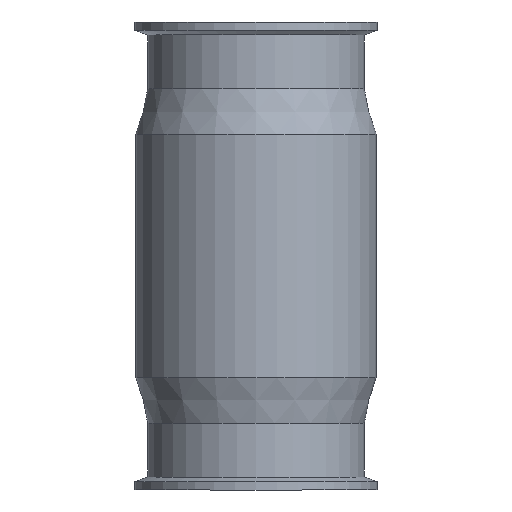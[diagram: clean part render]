
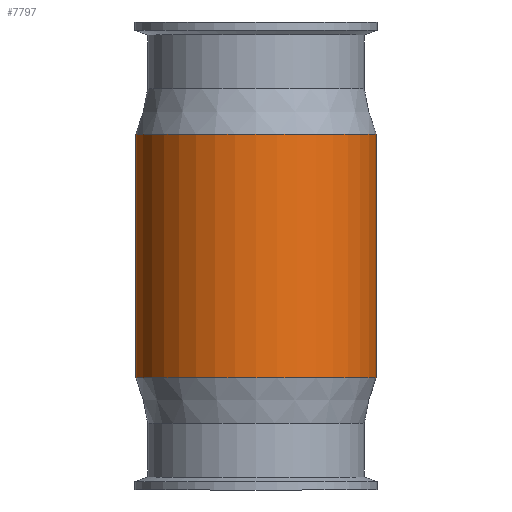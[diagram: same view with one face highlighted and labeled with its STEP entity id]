
A CAD part, front view. The second image highlights one B-rep face of the part: STEP entity #7797.
In plain terms, the highlighted cylindrical face has radius 45 mm (diameter 90 mm), a full revolution.
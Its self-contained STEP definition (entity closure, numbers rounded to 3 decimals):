
#6044=CYLINDRICAL_SURFACE('',#22681,45.);
#6818=B_SPLINE_CURVE_WITH_KNOTS('',3,(#43963,#43964,#43965,#43966,#43967,
#43968,#43969,#43970,#43971,#43972),.UNSPECIFIED.,.F.,.F.,(4,2,2,2,4),(0.,
0.25,0.5,0.75,1.),.UNSPECIFIED.);
#6819=B_SPLINE_CURVE_WITH_KNOTS('',3,(#43977,#43978,#43979,#43980,#43981,
#43982,#43983,#43984,#43985,#43986),.UNSPECIFIED.,.F.,.F.,(4,2,2,2,4),(0.,
0.25,0.5,0.75,1.),.UNSPECIFIED.);
#7797=ADVANCED_FACE('',(#8625,#8626,#8627),#6044,.T.);
#8625=FACE_BOUND('',#9867,.T.);
#8626=FACE_BOUND('',#9868,.T.);
#8627=FACE_BOUND('',#9869,.T.);
#9867=EDGE_LOOP('',(#15129));
#9868=EDGE_LOOP('',(#15130));
#9869=EDGE_LOOP('',(#15131,#15132,#15133,#15134));
#10493=CIRCLE('',#22679,45.);
#10494=CIRCLE('',#22680,45.);
#15129=ORIENTED_EDGE('',*,*,#19063,.T.);
#15130=ORIENTED_EDGE('',*,*,#19064,.T.);
#15131=ORIENTED_EDGE('',*,*,#19062,.F.);
#15132=ORIENTED_EDGE('',*,*,#19060,.F.);
#15133=ORIENTED_EDGE('',*,*,#19061,.F.);
#15134=ORIENTED_EDGE('',*,*,#19058,.F.);
#16730=VERTEX_POINT('',#43961);
#16731=VERTEX_POINT('',#43962);
#16732=VERTEX_POINT('',#43975);
#16733=VERTEX_POINT('',#43976);
#16734=VERTEX_POINT('',#43992);
#16735=VERTEX_POINT('',#43994);
#19058=EDGE_CURVE('',#16731,#16730,#6818,.T.);
#19060=EDGE_CURVE('',#16733,#16732,#6819,.T.);
#19061=EDGE_CURVE('',#16730,#16733,#20077,.T.);
#19062=EDGE_CURVE('',#16732,#16731,#20078,.T.);
#19063=EDGE_CURVE('',#16734,#16734,#10493,.T.);
#19064=EDGE_CURVE('',#16735,#16735,#10494,.T.);
#20077=LINE('',#43988,#21239);
#20078=LINE('',#43989,#21240);
#21239=VECTOR('',#26743,1.);
#21240=VECTOR('',#26744,1.);
#22679=AXIS2_PLACEMENT_3D('',#43991,#26747,#26748);
#22680=AXIS2_PLACEMENT_3D('',#43993,#26749,#26750);
#22681=AXIS2_PLACEMENT_3D('',#43995,#26751,#26752);
#26743=DIRECTION('',(0.,0.,1.));
#26744=DIRECTION('',(0.,0.,-1.));
#26747=DIRECTION('',(0.,0.,-1.));
#26748=DIRECTION('',(0.,-1.,0.));
#26749=DIRECTION('',(0.,0.,1.));
#26750=DIRECTION('',(0.,1.,0.));
#26751=DIRECTION('',(0.,0.,1.));
#26752=DIRECTION('',(0.,1.,0.));
#43961=CARTESIAN_POINT('',(-11.537,16.,-11.803));
#43962=CARTESIAN_POINT('',(11.506,16.,-11.803));
#43963=CARTESIAN_POINT('',(11.506,16.,-11.803));
#43964=CARTESIAN_POINT('',(10.154,16.358,-13.573));
#43965=CARTESIAN_POINT('',(8.416,16.748,-15.001));
#43966=CARTESIAN_POINT('',(4.464,17.321,-16.966));
#43967=CARTESIAN_POINT('',(2.231,17.499,-17.497));
#43968=CARTESIAN_POINT('',(-2.226,17.501,-17.503));
#43969=CARTESIAN_POINT('',(-4.466,17.325,-16.978));
#43970=CARTESIAN_POINT('',(-8.45,16.748,-15.002));
#43971=CARTESIAN_POINT('',(-10.185,16.358,-13.573));
#43972=CARTESIAN_POINT('',(-11.537,16.,-11.803));
#43975=CARTESIAN_POINT('',(11.506,16.,5.803));
#43976=CARTESIAN_POINT('',(-11.537,16.,5.803));
#43977=CARTESIAN_POINT('',(-11.537,16.,5.803));
#43978=CARTESIAN_POINT('',(-10.185,16.358,7.573));
#43979=CARTESIAN_POINT('',(-8.448,16.748,9.001));
#43980=CARTESIAN_POINT('',(-4.495,17.321,10.966));
#43981=CARTESIAN_POINT('',(-2.262,17.499,11.497));
#43982=CARTESIAN_POINT('',(2.195,17.501,11.503));
#43983=CARTESIAN_POINT('',(4.434,17.325,10.978));
#43984=CARTESIAN_POINT('',(8.419,16.748,9.002));
#43985=CARTESIAN_POINT('',(10.154,16.358,7.573));
#43986=CARTESIAN_POINT('',(11.506,16.,5.803));
#43988=CARTESIAN_POINT('',(-11.537,16.,-3.));
#43989=CARTESIAN_POINT('',(11.506,16.,-2.999));
#43991=CARTESIAN_POINT('',(-0.016,-27.5,52.258));
#43992=CARTESIAN_POINT('',(-0.016,-72.5,52.258));
#43993=CARTESIAN_POINT('',(-0.016,-27.5,-38.742));
#43994=CARTESIAN_POINT('',(-0.016,17.5,-38.742));
#43995=CARTESIAN_POINT('',(-0.016,-27.5,913.158));
